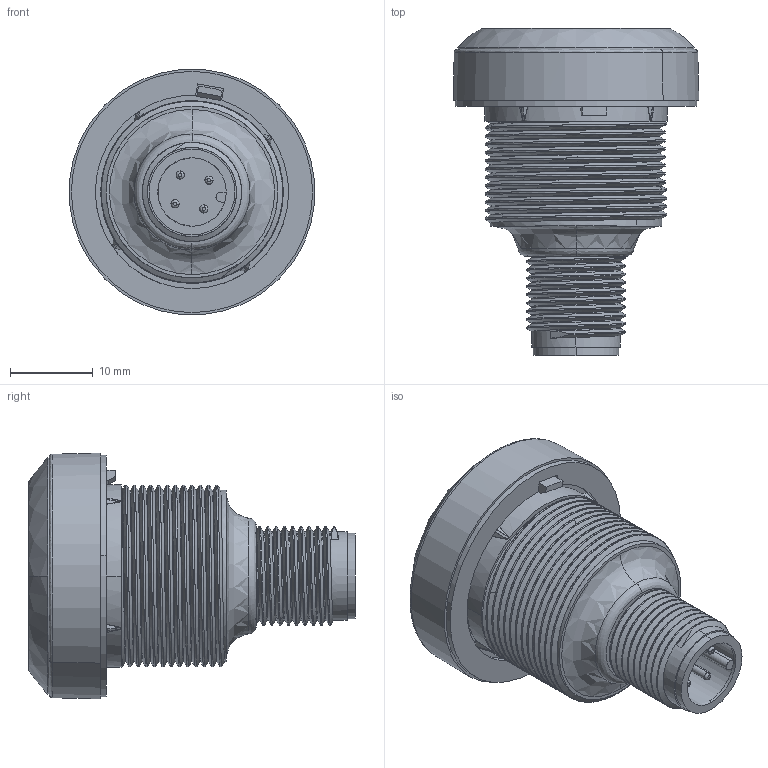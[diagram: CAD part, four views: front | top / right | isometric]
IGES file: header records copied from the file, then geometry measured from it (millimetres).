
Start section:  PTC IGES file: 2035113
Global section: file name: 2035113; native system: Creo Parametric by PTC Inc.; preprocessor: 2019292; author: s.mayer; organization: Unknown; date: 20230712.074926; units: millimetre
Bounding box: 29.69 x 39.55 x 29.69 mm (x, y, z)
Surface area: 5171.9 mm2 (no closed solid volume)
Topology: 0 solids, 0 shells, 542 faces, 3210 edges, 3210 vertices
Faces by surface type: revolution 296, bspline 246
